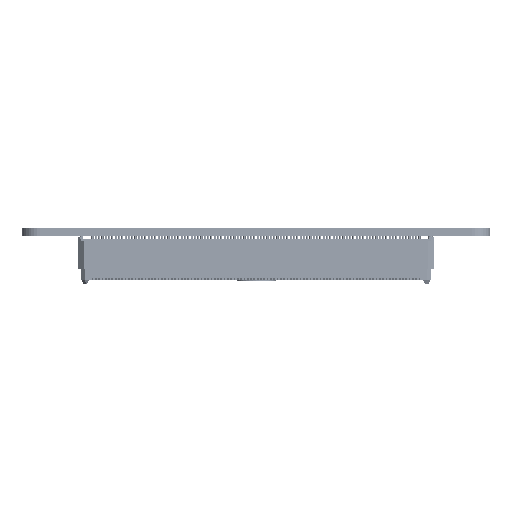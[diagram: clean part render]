
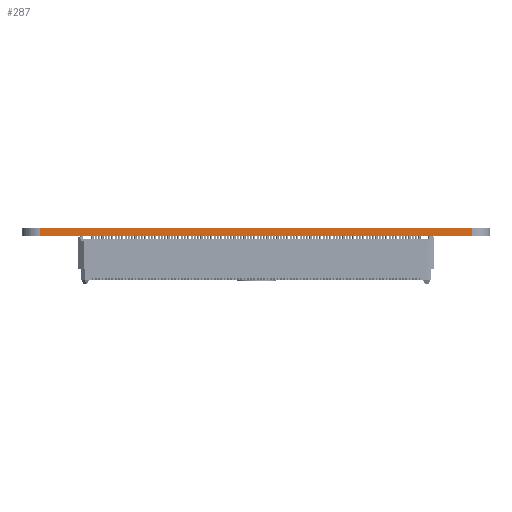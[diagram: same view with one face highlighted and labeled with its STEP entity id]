
A CAD part, left-side view. The second image highlights one B-rep face of the part: STEP entity #287.
In plain terms, the highlighted planar face has unit normal (-1, 0, 0).
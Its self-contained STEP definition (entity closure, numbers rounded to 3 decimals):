
#57 = EDGE_CURVE('',#58,#60,#62,.T.);
#58 = VERTEX_POINT('',#59);
#59 = CARTESIAN_POINT('',(0.,3.5,0.));
#60 = VERTEX_POINT('',#61);
#61 = CARTESIAN_POINT('',(0.,3.5,1.57));
#62 = LINE('',#63,#64);
#63 = CARTESIAN_POINT('',(0.,3.5,0.));
#64 = VECTOR('',#65,1.);
#65 = DIRECTION('',(0.,0.,1.));
#260 = VERTEX_POINT('',#261);
#261 = CARTESIAN_POINT('',(0.,86.5,1.57));
#268 = EDGE_CURVE('',#269,#260,#271,.T.);
#269 = VERTEX_POINT('',#270);
#270 = CARTESIAN_POINT('',(0.,86.5,0.));
#271 = LINE('',#272,#273);
#272 = CARTESIAN_POINT('',(0.,86.5,0.));
#273 = VECTOR('',#274,1.);
#274 = DIRECTION('',(0.,0.,1.));
#287 = ADVANCED_FACE('',(#288),#304,.F.);
#288 = FACE_BOUND('',#289,.F.);
#289 = EDGE_LOOP('',(#290,#291,#297,#298));
#290 = ORIENTED_EDGE('',*,*,#268,.T.);
#291 = ORIENTED_EDGE('',*,*,#292,.T.);
#292 = EDGE_CURVE('',#260,#60,#293,.T.);
#293 = LINE('',#294,#295);
#294 = CARTESIAN_POINT('',(0.,86.5,1.57));
#295 = VECTOR('',#296,1.);
#296 = DIRECTION('',(0.,-1.,0.));
#297 = ORIENTED_EDGE('',*,*,#57,.F.);
#298 = ORIENTED_EDGE('',*,*,#299,.F.);
#299 = EDGE_CURVE('',#269,#58,#300,.T.);
#300 = LINE('',#301,#302);
#301 = CARTESIAN_POINT('',(0.,86.5,0.));
#302 = VECTOR('',#303,1.);
#303 = DIRECTION('',(0.,-1.,0.));
#304 = PLANE('',#305);
#305 = AXIS2_PLACEMENT_3D('',#306,#307,#308);
#306 = CARTESIAN_POINT('',(0.,86.5,0.));
#307 = DIRECTION('',(1.,0.,-0.));
#308 = DIRECTION('',(0.,-1.,0.));
